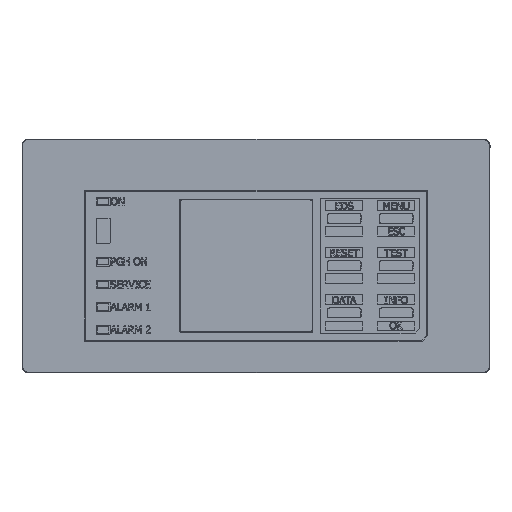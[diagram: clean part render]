
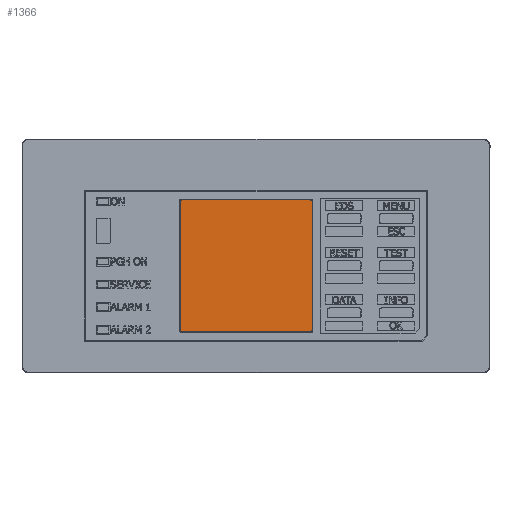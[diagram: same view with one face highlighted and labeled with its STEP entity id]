
A CAD part, top view. The second image highlights one B-rep face of the part: STEP entity #1366.
In plain terms, the highlighted planar face has unit normal (0, 0, 1).
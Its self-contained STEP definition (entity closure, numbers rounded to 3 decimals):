
#1366 = ADVANCED_FACE ( 'NONE', ( #82182 ), #76272, .T. ) ;
#1750 = VERTEX_POINT ( 'NONE', #60993 ) ;
#1857 = CARTESIAN_POINT ( 'NONE',  ( 17.25, 16.75, 5.12 ) ) ;
#2404 = CIRCLE ( 'NONE', #28558, 0.5 ) ;
#2673 = EDGE_CURVE ( 'NONE', #69680, #24403, #45040, .T. ) ;
#2825 = CARTESIAN_POINT ( 'NONE',  ( -22.75, -23.25, 5.12 ) ) ;
#3310 = CIRCLE ( 'NONE', #78762, 0.5 ) ;
#3503 = ORIENTED_EDGE ( 'NONE', *, *, #36769, .T. ) ;
#3978 = VECTOR ( 'NONE', #70730, 1000. ) ;
#5106 = AXIS2_PLACEMENT_3D ( 'NONE', #41779, #41672, #41658 ) ;
#5860 = EDGE_CURVE ( 'NONE', #36066, #18046, #2404, .T. ) ;
#7241 = ORIENTED_EDGE ( 'NONE', *, *, #59719, .T. ) ;
#7320 = AXIS2_PLACEMENT_3D ( 'NONE', #75189, #75128, #75033 ) ;
#8192 = VERTEX_POINT ( 'NONE', #61623 ) ;
#8604 = EDGE_CURVE ( 'NONE', #69680, #1750, #48809, .T. ) ;
#12281 = VECTOR ( 'NONE', #35315, 1000. ) ;
#13635 = CARTESIAN_POINT ( 'NONE',  ( 16.75, -23.25, 5.12 ) ) ;
#14761 = EDGE_CURVE ( 'NONE', #24403, #72813, #3310, .T. ) ;
#15576 = VECTOR ( 'NONE', #39751, 1000. ) ;
#15961 = CARTESIAN_POINT ( 'NONE',  ( -23.25, -22.75, 5.12 ) ) ;
#18013 = CARTESIAN_POINT ( 'NONE',  ( 17.25, 16.75, 5.12 ) ) ;
#18046 = VERTEX_POINT ( 'NONE', #18013 ) ;
#20233 = DIRECTION ( 'NONE',  ( 0., -1., 0. ) ) ;
#20514 = CARTESIAN_POINT ( 'NONE',  ( -23.25, -22.75, 5.12 ) ) ;
#24403 = VERTEX_POINT ( 'NONE', #15961 ) ;
#26165 = CARTESIAN_POINT ( 'NONE',  ( 16.75, -22.75, 5.12 ) ) ;
#28558 = AXIS2_PLACEMENT_3D ( 'NONE', #69178, #69067, #68990 ) ;
#30099 = LINE ( 'NONE', #1857, #12281 ) ;
#32927 = DIRECTION ( 'NONE',  ( -1., 0., 0. ) ) ;
#33461 = LINE ( 'NONE', #66468, #15576 ) ;
#35315 = DIRECTION ( 'NONE',  ( 0., 1., 0. ) ) ;
#36066 = VERTEX_POINT ( 'NONE', #43433 ) ;
#36769 = EDGE_CURVE ( 'NONE', #72813, #48017, #33461, .T. ) ;
#39724 = LINE ( 'NONE', #63982, #3978 ) ;
#39751 = DIRECTION ( 'NONE',  ( 1., 0., 0. ) ) ;
#41549 = AXIS2_PLACEMENT_3D ( 'NONE', #26165, #73083, #32927 ) ;
#41658 = DIRECTION ( 'NONE',  ( -1., 0., 0. ) ) ;
#41672 = DIRECTION ( 'NONE',  ( 0., 0., -1. ) ) ;
#41779 = CARTESIAN_POINT ( 'NONE',  ( -22.75, 16.75, 5.12 ) ) ;
#43433 = CARTESIAN_POINT ( 'NONE',  ( 16.75, 17.25, 5.12 ) ) ;
#45040 = LINE ( 'NONE', #20514, #78542 ) ;
#46290 = ORIENTED_EDGE ( 'NONE', *, *, #14761, .T. ) ;
#48017 = VERTEX_POINT ( 'NONE', #13635 ) ;
#48809 = CIRCLE ( 'NONE', #5106, 0.5 ) ;
#50982 = ORIENTED_EDGE ( 'NONE', *, *, #5860, .F. ) ;
#51632 = EDGE_LOOP ( 'NONE', ( #67603, #61146, #46290, #3503, #75748, #7241, #50982, #56528 ) ) ;
#54783 = DIRECTION ( 'NONE',  ( -1., 0., 0. ) ) ;
#54800 = DIRECTION ( 'NONE',  ( 0., 0., 1. ) ) ;
#54974 = CARTESIAN_POINT ( 'NONE',  ( -22.75, -22.75, 5.12 ) ) ;
#56528 = ORIENTED_EDGE ( 'NONE', *, *, #83764, .T. ) ;
#59719 = EDGE_CURVE ( 'NONE', #8192, #18046, #30099, .T. ) ;
#60993 = CARTESIAN_POINT ( 'NONE',  ( -22.75, 17.25, 5.12 ) ) ;
#61146 = ORIENTED_EDGE ( 'NONE', *, *, #2673, .T. ) ;
#61154 = EDGE_CURVE ( 'NONE', #8192, #48017, #75742, .T. ) ;
#61623 = CARTESIAN_POINT ( 'NONE',  ( 17.25, -22.75, 5.12 ) ) ;
#63982 = CARTESIAN_POINT ( 'NONE',  ( -22.75, 17.25, 5.12 ) ) ;
#66468 = CARTESIAN_POINT ( 'NONE',  ( 16.75, -23.25, 5.12 ) ) ;
#67603 = ORIENTED_EDGE ( 'NONE', *, *, #8604, .F. ) ;
#68990 = DIRECTION ( 'NONE',  ( -1., 0., 0. ) ) ;
#69067 = DIRECTION ( 'NONE',  ( 0., 0., -1. ) ) ;
#69178 = CARTESIAN_POINT ( 'NONE',  ( 16.75, 16.75, 5.12 ) ) ;
#69680 = VERTEX_POINT ( 'NONE', #77141 ) ;
#70730 = DIRECTION ( 'NONE',  ( -1., 0., 0. ) ) ;
#72813 = VERTEX_POINT ( 'NONE', #2825 ) ;
#73083 = DIRECTION ( 'NONE',  ( 0., 0., -1. ) ) ;
#75033 = DIRECTION ( 'NONE',  ( 1., 0., 0. ) ) ;
#75128 = DIRECTION ( 'NONE',  ( 0., 0., 1. ) ) ;
#75189 = CARTESIAN_POINT ( 'NONE',  ( -22.75, -22.75, 5.12 ) ) ;
#75742 = CIRCLE ( 'NONE', #41549, 0.5 ) ;
#75748 = ORIENTED_EDGE ( 'NONE', *, *, #61154, .F. ) ;
#76272 = PLANE ( 'NONE',  #7320 ) ;
#77141 = CARTESIAN_POINT ( 'NONE',  ( -23.25, 16.75, 5.12 ) ) ;
#78542 = VECTOR ( 'NONE', #20233, 1000. ) ;
#78762 = AXIS2_PLACEMENT_3D ( 'NONE', #54974, #54800, #54783 ) ;
#82182 = FACE_OUTER_BOUND ( 'NONE', #51632, .T. ) ;
#83764 = EDGE_CURVE ( 'NONE', #36066, #1750, #39724, .T. ) ;
